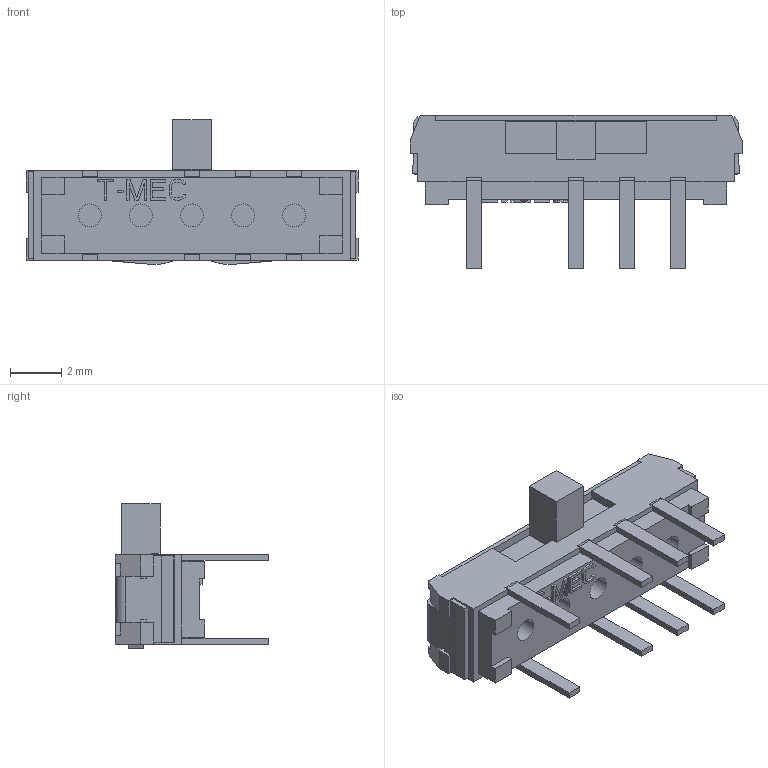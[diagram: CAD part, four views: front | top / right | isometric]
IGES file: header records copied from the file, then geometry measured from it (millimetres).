
Start section:  PTC IGES file: NSS509-223N-CCCD1B.igs
Global section: file name: NSS509-223N-CCCD1B.igs; native system: Pro/ENGINEER by Parametric Technology Corporation; preprocessor: 2008230; author: catherine_lee; organization: Unknown; date: 20090319.100510; units: millimetre
Bounding box: 13 x 6 x 5.67 mm (x, y, z)
Surface area: 484.3 mm2 (no closed solid volume)
Topology: 0 solids, 0 shells, 402 faces, 2338 edges, 2354 vertices
Faces by surface type: bspline 349, revolution 53
